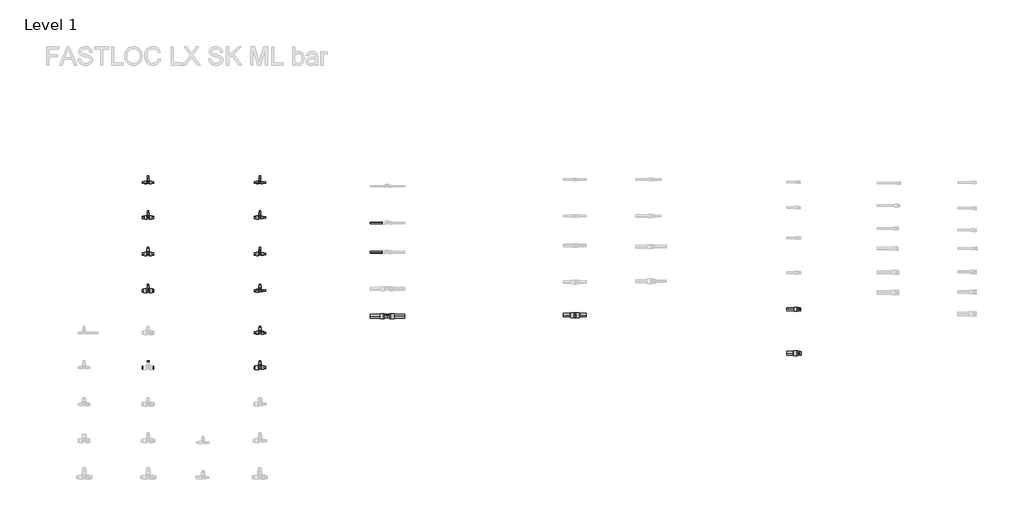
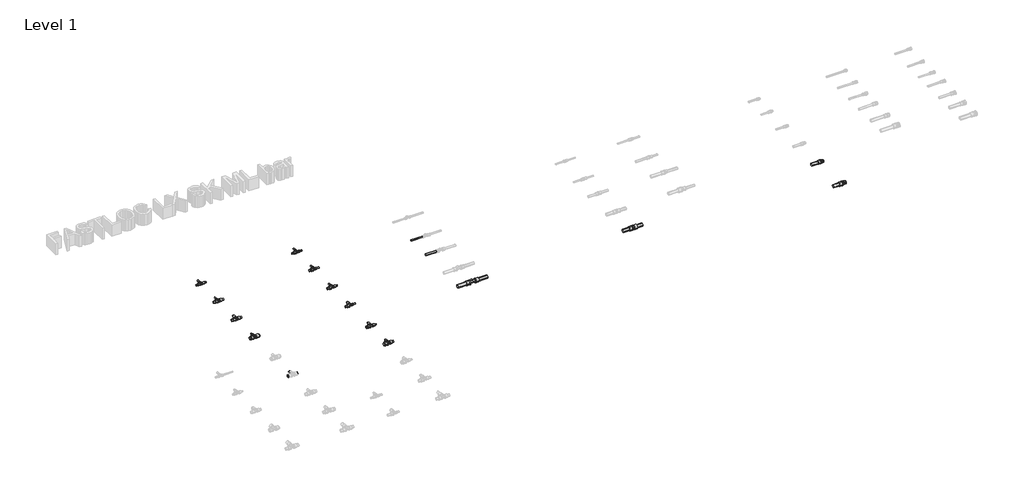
# One storey, part 13 of 78: 41 pipe segments, 14 pipe fittings.
"""IFC4 building model written with IfcOpenShell, lengths in millimetres."""

from ifc_helpers import new_model, si_unit, point, frame, frame_2d, origin, place, context, project, spatial, circle_curve, trimmed, segment, composite_curve, outline, extrude, transform, mapped, element, save
from components import pipe_fitting_5ae7c970, pipe_fitting_e97a97d3, pipe_fitting_d9a56b63, pipe_fitting_a094db19, pipe_fitting_5d5decb5, pipe_fitting_f2600fd0, pipe_fitting_8fb58d5f, pipe_fitting_db17a53a, pipe_fitting_3bea6388, pipe_fitting_e638986c, pipe_fitting_00caae07, pipe_fitting_607ccf76, pipe_fitting_b01d00d0, pipe_fitting_e8fea69e

model = new_model("IFC4")

# Units and contexts
model_context = context("Model", 3, world=origin())
ifc_project = project(units=[si_unit("LENGTHUNIT", "METRE", prefix="MILLI")], contexts=[model_context])

# Site, building, storey
site = spatial("IfcSite", under=ifc_project)
building = spatial("IfcBuilding", under=site)
storey = spatial("IfcBuildingStorey", under=building, Name="Level 1", Elevation=0.0)

# Pipe fittings
placement = place(None, origin())
pipe_fitting_shape = pipe_fitting_5ae7c970(model_context)
element("IfcPipeFitting", 1, ObjectType="FASTLOC_T-piece_LX : FSL T-Piece LX SK", at=placement, inside=storey, context=model_context, shape_type="MappedRepresentation", body=[
    mapped(pipe_fitting_shape, transform((426.7498072, -18740.2405791, 0.0), x_axis=(1.0, 0.0, 0.0), y_axis=(0.0, 1.0, 0.0), z_axis=(0.0, 0.0, 1.0))),
])
pipe_fitting_2_shape = pipe_fitting_e97a97d3(model_context)
element("IfcPipeFitting", 2, ObjectType="FASTLOC_T-piece_LX : FSL T-Piece LX SK", at=placement, inside=storey, context=model_context, shape_type="MappedRepresentation", body=[
    mapped(pipe_fitting_2_shape, transform((426.7498072, -19120.2405791, 0.0), x_axis=(1.0, 0.0, 0.0), y_axis=(0.0, 1.0, 0.0), z_axis=(0.0, 0.0, 1.0))),
])
pipe_fitting_3_shape = pipe_fitting_d9a56b63(model_context)
element("IfcPipeFitting", 3, ObjectType="FASTLOC_T-piece_LX : FSL T-Piece LX SK", at=placement, inside=storey, context=model_context, shape_type="MappedRepresentation", body=[
    mapped(pipe_fitting_3_shape, transform((426.7498072, -19520.2405791, 0.0), x_axis=(1.0, 0.0, 0.0), y_axis=(0.0, 1.0, 0.0), z_axis=(0.0, 0.0, 1.0))),
])
pipe_fitting_4_shape = pipe_fitting_a094db19(model_context)
element("IfcPipeFitting", 4, ObjectType="FASTLOC_T-piece_LX : FSL T-Piece LX SK", at=placement, inside=storey, context=model_context, shape_type="MappedRepresentation", body=[
    mapped(pipe_fitting_4_shape, transform((426.7498072, -19920.2405791, 0.0), x_axis=(1.0, 0.0, 0.0), y_axis=(0.0, 1.0, 0.0), z_axis=(0.0, 0.0, 1.0))),
])
pipe_fitting_5_shape = pipe_fitting_5d5decb5(model_context)
element("IfcPipeFitting", 5, ObjectType="FASTLOC_T-piece_LX : FSL T-Piece LX SK", at=placement, inside=storey, context=model_context, shape_type="MappedRepresentation", body=[
    mapped(pipe_fitting_5_shape, transform((1646.7498072, -20380.2405791, 0.0), x_axis=(1.0, 0.0, 0.0), y_axis=(0.0, 1.0, 0.0), z_axis=(0.0, 0.0, 1.0))),
])
pipe_fitting_6_shape = pipe_fitting_f2600fd0(model_context)
element("IfcPipeFitting", 6, ObjectType="FASTLOC_T-piece_LX : FSL T-Piece LX SK", at=placement, inside=storey, context=model_context, shape_type="MappedRepresentation", body=[
    mapped(pipe_fitting_6_shape, transform((1646.7498072, -20760.2405791, 0.0), x_axis=(1.0, 0.0, 0.0), y_axis=(0.0, 1.0, 0.0), z_axis=(0.0, 0.0, 1.0))),
])
pipe_fitting_7_shape = pipe_fitting_8fb58d5f(model_context)
element("IfcPipeFitting", 7, ObjectType="FASTLOC_T-piece_LX : FSL T-Piece LX SK", at=placement, inside=storey, context=model_context, shape_type="MappedRepresentation", body=[
    mapped(pipe_fitting_7_shape, transform((1646.7498072, -18740.2405791, 0.0), x_axis=(1.0, 0.0, 0.0), y_axis=(0.0, 1.0, 0.0), z_axis=(0.0, 0.0, 1.0))),
])
pipe_fitting_8_shape = pipe_fitting_db17a53a(model_context)
element("IfcPipeFitting", 8, ObjectType="FASTLOC_T-piece_LX : FSL T-Piece LX SK", at=placement, inside=storey, context=model_context, shape_type="MappedRepresentation", body=[
    mapped(pipe_fitting_8_shape, transform((1646.7498072, -19120.2405791, 0.0), x_axis=(1.0, 0.0, 0.0), y_axis=(0.0, 1.0, 0.0), z_axis=(0.0, 0.0, 1.0))),
])
pipe_fitting_9_shape = pipe_fitting_3bea6388(model_context)
element("IfcPipeFitting", 9, ObjectType="FASTLOC_T-piece_LX : FSL T-Piece LX SK", at=placement, inside=storey, context=model_context, shape_type="MappedRepresentation", body=[
    mapped(pipe_fitting_9_shape, transform((1646.7498072, -19520.2405791, 0.0), x_axis=(1.0, 0.0, 0.0), y_axis=(0.0, 1.0, 0.0), z_axis=(0.0, 0.0, 1.0))),
])
pipe_fitting_10_shape = pipe_fitting_e638986c(model_context)
element("IfcPipeFitting", 10, ObjectType="FASTLOC_T-piece_LX : FSL T-Piece LX SK", at=placement, inside=storey, context=model_context, shape_type="MappedRepresentation", body=[
    mapped(pipe_fitting_10_shape, transform((1646.7498072, -19920.2405791, 0.0), x_axis=(1.0, 0.0, 0.0), y_axis=(0.0, 1.0, 0.0), z_axis=(0.0, 0.0, 1.0))),
])
pipe_fitting_11_shape = pipe_fitting_00caae07(model_context)
element("IfcPipeFitting", 11, ObjectType="FASTLOC_T-piece internal thread LX : FSL T thread LX SK", at=placement, inside=storey, context=model_context, shape_type="MappedRepresentation", body=[
    mapped(pipe_fitting_11_shape, transform((3036.609585, -20199.8272875, 0.0), x_axis=(1.0, 0.0, 0.0), y_axis=(0.0, 1.0, 0.0), z_axis=(0.0, 0.0, 1.0))),
])
pipe_fitting_12_shape = pipe_fitting_607ccf76(model_context)
element("IfcPipeFitting", 12, ObjectType="FASTLOC_Coupling equal LX : FSL C LX SK", at=placement, inside=storey, context=model_context, shape_type="MappedRepresentation", body=[
    mapped(pipe_fitting_12_shape, transform((5088.3790161, -20187.4785925, 0.0), x_axis=(1.0, 0.0, 0.0), y_axis=(0.0, 1.0, 0.0), z_axis=(0.0, 0.0, 1.0))),
])
pipe_fitting_13_shape = pipe_fitting_b01d00d0(model_context)
element("IfcPipeFitting", 13, ObjectType="FASTLOC_Adapter_LX, with external thread : FSL A C external SK", at=placement, inside=storey, context=model_context, shape_type="MappedRepresentation", body=[
    mapped(pipe_fitting_13_shape, transform((7526.8953131, -20124.2068389, 0.0), x_axis=(1.0, 0.0, 0.0), y_axis=(0.0, 1.0, 0.0), z_axis=(0.0, 0.0, 1.0))),
])
pipe_fitting_14_shape = pipe_fitting_e8fea69e(model_context)
element("IfcPipeFitting", 14, ObjectType="FASTLOC_Adapter_LX, with external thread : FSL A C external SK", at=placement, inside=storey, context=model_context, shape_type="MappedRepresentation", body=[
    mapped(pipe_fitting_14_shape, transform((7526.8953131, -20604.2068389, 0.0), x_axis=(1.0, 0.0, 0.0), y_axis=(0.0, 1.0, 0.0), z_axis=(0.0, 0.0, 1.0))),
])

# Pipe segments
element("IfcPipeSegment", 15, ObjectType="FASTLOC LX ML SK bar", at=placement, inside=storey, context=model_context, shape_type="SweptSolid", body=[
    extrude(outline(composite_curve([segment(trimmed(circle_curve(frame_2d((-20760.2405791, 0.0)), 16.0), [point((-20776.2405791, 0.0))], [point((-20760.2405791, 16.0))], False, "CARTESIAN"), True, "CONTINUOUS"), segment(trimmed(circle_curve(frame_2d((-20760.2405791, 0.0)), 16.0), [point((-20760.2405791, 16.0))], [point((-20744.2405791, 0.0))], False, "CARTESIAN"), True, "CONTINUOUS"), segment(trimmed(circle_curve(frame_2d((-20760.2405791, 0.0)), 16.0), [point((-20744.2405791, 0.0))], [point((-20760.2405791, -16.0))], False, "CARTESIAN"), True, "CONTINUOUS"), segment(trimmed(circle_curve(frame_2d((-20760.2405791, 0.0)), 16.0), [point((-20760.2405791, -16.0))], [point((-20776.2405791, 0.0))], False, "CARTESIAN"), True, "CONTINUOUS")], self_intersect=False)), frame((448.7498072, 0.0, 0.0), z_axis=(1.0, 0.0, 0.0), x_axis=(0.0, 1.0, 0.0)), (0.0, 0.0, 1.0), 40.0),
])
element("IfcPipeSegment", 16, ObjectType="FASTLOC LX ML SK bar", at=placement, inside=storey, context=model_context, shape_type="SweptSolid", body=[
    extrude(outline(composite_curve([segment(trimmed(circle_curve(frame_2d((-20760.2405791, 0.0)), 16.0), [point((-20744.2405791, 0.0))], [point((-20760.2405791, -16.0))], False, "CARTESIAN"), True, "CONTINUOUS"), segment(trimmed(circle_curve(frame_2d((-20760.2405791, 0.0)), 16.0), [point((-20760.2405791, -16.0))], [point((-20776.2405791, 0.0))], False, "CARTESIAN"), True, "CONTINUOUS"), segment(trimmed(circle_curve(frame_2d((-20760.2405791, 0.0)), 16.0), [point((-20776.2405791, 0.0))], [point((-20760.2405791, 16.0))], False, "CARTESIAN"), True, "CONTINUOUS"), segment(trimmed(circle_curve(frame_2d((-20760.2405791, 0.0)), 16.0), [point((-20760.2405791, 16.0))], [point((-20744.2405791, 0.0))], False, "CARTESIAN"), True, "CONTINUOUS")], self_intersect=False)), frame((364.7498072, 0.0, 0.0), z_axis=(1.0, 0.0, 0.0), x_axis=(0.0, 1.0, 0.0)), (0.0, 0.0, 1.0), 40.0),
])
element("IfcPipeSegment", 17, ObjectType="FASTLOC LX ML SK bar", at=placement, inside=storey, context=model_context, shape_type="SweptSolid", body=[
    extrude(outline(composite_curve([segment(trimmed(circle_curve(frame_2d((0.0, 426.7498072)), 12.5), [point((0.0, 439.2498072))], [point((12.5, 426.7498072))], False, "CARTESIAN"), True, "CONTINUOUS"), segment(trimmed(circle_curve(frame_2d((0.0, 426.7498072)), 12.5), [point((12.5, 426.7498072))], [point((0.0, 414.2498072))], False, "CARTESIAN"), True, "CONTINUOUS"), segment(trimmed(circle_curve(frame_2d((0.0, 426.7498072)), 12.5), [point((0.0, 414.2498072))], [point((-12.5, 426.7498072))], False, "CARTESIAN"), True, "CONTINUOUS"), segment(trimmed(circle_curve(frame_2d((0.0, 426.7498072)), 12.5), [point((-12.5, 426.7498072))], [point((0.0, 439.2498072))], False, "CARTESIAN"), True, "CONTINUOUS")], self_intersect=False)), frame((0.0, -20725.8405791, 0.0), z_axis=(0.0, 1.0, 0.0), x_axis=(0.0, 0.0, 1.0)), (0.0, 0.0, 1.0), 37.9),
])
element("IfcPipeSegment", 18, ObjectType="FASTLOC LX ML SK bar", at=placement, inside=storey, context=model_context, shape_type="SweptSolid", body=[
    extrude(outline(composite_curve([segment(trimmed(circle_curve(frame_2d((-18740.2405791, 0.0)), 8.0), [point((-18748.2405791, 0.0))], [point((-18740.2405791, 8.0))], False, "CARTESIAN"), True, "CONTINUOUS"), segment(trimmed(circle_curve(frame_2d((-18740.2405791, 0.0)), 8.0), [point((-18740.2405791, 8.0))], [point((-18732.2405791, 0.0))], False, "CARTESIAN"), True, "CONTINUOUS"), segment(trimmed(circle_curve(frame_2d((-18740.2405791, 0.0)), 8.0), [point((-18732.2405791, 0.0))], [point((-18740.2405791, -8.0))], False, "CARTESIAN"), True, "CONTINUOUS"), segment(trimmed(circle_curve(frame_2d((-18740.2405791, 0.0)), 8.0), [point((-18740.2405791, -8.0))], [point((-18748.2405791, 0.0))], False, "CARTESIAN"), True, "CONTINUOUS")], self_intersect=False)), frame((442.0498072, 0.0, 0.0), z_axis=(1.0, 0.0, 0.0), x_axis=(0.0, 1.0, 0.0)), (0.0, 0.0, 1.0), 46.7),
])
element("IfcPipeSegment", 19, ObjectType="FASTLOC LX ML SK bar", at=placement, inside=storey, context=model_context, shape_type="SweptSolid", body=[
    extrude(outline(composite_curve([segment(trimmed(circle_curve(frame_2d((-18740.2405791, 0.0)), 8.0), [point((-18732.2405791, 0.0))], [point((-18740.2405791, -8.0))], False, "CARTESIAN"), True, "CONTINUOUS"), segment(trimmed(circle_curve(frame_2d((-18740.2405791, 0.0)), 8.0), [point((-18740.2405791, -8.0))], [point((-18748.2405791, 0.0))], False, "CARTESIAN"), True, "CONTINUOUS"), segment(trimmed(circle_curve(frame_2d((-18740.2405791, 0.0)), 8.0), [point((-18748.2405791, 0.0))], [point((-18740.2405791, 8.0))], False, "CARTESIAN"), True, "CONTINUOUS"), segment(trimmed(circle_curve(frame_2d((-18740.2405791, 0.0)), 8.0), [point((-18740.2405791, 8.0))], [point((-18732.2405791, 0.0))], False, "CARTESIAN"), True, "CONTINUOUS")], self_intersect=False)), frame((364.7498072, 0.0, 0.0), z_axis=(1.0, 0.0, 0.0), x_axis=(0.0, 1.0, 0.0)), (0.0, 0.0, 1.0), 46.7),
])
element("IfcPipeSegment", 20, ObjectType="FASTLOC LX ML SK bar", at=placement, inside=storey, context=model_context, shape_type="SweptSolid", body=[
    extrude(outline(composite_curve([segment(trimmed(circle_curve(frame_2d((0.0, 426.7498072)), 8.0), [point((0.0, 434.7498072))], [point((8.0, 426.7498072))], False, "CARTESIAN"), True, "CONTINUOUS"), segment(trimmed(circle_curve(frame_2d((0.0, 426.7498072)), 8.0), [point((8.0, 426.7498072))], [point((0.0, 418.7498072))], False, "CARTESIAN"), True, "CONTINUOUS"), segment(trimmed(circle_curve(frame_2d((0.0, 426.7498072)), 8.0), [point((0.0, 418.7498072))], [point((-8.0, 426.7498072))], False, "CARTESIAN"), True, "CONTINUOUS"), segment(trimmed(circle_curve(frame_2d((0.0, 426.7498072)), 8.0), [point((-8.0, 426.7498072))], [point((0.0, 434.7498072))], False, "CARTESIAN"), True, "CONTINUOUS")], self_intersect=False)), frame((0.0, -18713.9405791, 0.0), z_axis=(0.0, 1.0, 0.0), x_axis=(0.0, 0.0, 1.0)), (0.0, 0.0, 1.0), 46.0),
])
element("IfcPipeSegment", 21, ObjectType="FASTLOC LX ML SK bar", at=placement, inside=storey, context=model_context, shape_type="SweptSolid", body=[
    extrude(outline(composite_curve([segment(trimmed(circle_curve(frame_2d((-19120.2405791, 0.0)), 12.5), [point((-19132.7405791, 0.0))], [point((-19120.2405791, 12.5))], False, "CARTESIAN"), True, "CONTINUOUS"), segment(trimmed(circle_curve(frame_2d((-19120.2405791, 0.0)), 12.5), [point((-19120.2405791, 12.5))], [point((-19107.7405791, 0.0))], False, "CARTESIAN"), True, "CONTINUOUS"), segment(trimmed(circle_curve(frame_2d((-19120.2405791, 0.0)), 12.5), [point((-19107.7405791, 0.0))], [point((-19120.2405791, -12.5))], False, "CARTESIAN"), True, "CONTINUOUS"), segment(trimmed(circle_curve(frame_2d((-19120.2405791, 0.0)), 12.5), [point((-19120.2405791, -12.5))], [point((-19132.7405791, 0.0))], False, "CARTESIAN"), True, "CONTINUOUS")], self_intersect=False)), frame((442.9498072, 0.0, 0.0), z_axis=(1.0, 0.0, 0.0), x_axis=(0.0, 1.0, 0.0)), (0.0, 0.0, 1.0), 45.8),
])
element("IfcPipeSegment", 22, ObjectType="FASTLOC LX ML SK bar", at=placement, inside=storey, context=model_context, shape_type="SweptSolid", body=[
    extrude(outline(composite_curve([segment(trimmed(circle_curve(frame_2d((-19120.2405791, 0.0)), 12.5), [point((-19107.7405791, 0.0))], [point((-19120.2405791, -12.5))], False, "CARTESIAN"), True, "CONTINUOUS"), segment(trimmed(circle_curve(frame_2d((-19120.2405791, 0.0)), 12.5), [point((-19120.2405791, -12.5))], [point((-19132.7405791, 0.0))], False, "CARTESIAN"), True, "CONTINUOUS"), segment(trimmed(circle_curve(frame_2d((-19120.2405791, 0.0)), 12.5), [point((-19132.7405791, 0.0))], [point((-19120.2405791, 12.5))], False, "CARTESIAN"), True, "CONTINUOUS"), segment(trimmed(circle_curve(frame_2d((-19120.2405791, 0.0)), 12.5), [point((-19120.2405791, 12.5))], [point((-19107.7405791, 0.0))], False, "CARTESIAN"), True, "CONTINUOUS")], self_intersect=False)), frame((364.7498072, 0.0, 0.0), z_axis=(1.0, 0.0, 0.0), x_axis=(0.0, 1.0, 0.0)), (0.0, 0.0, 1.0), 45.8),
])
element("IfcPipeSegment", 23, ObjectType="FASTLOC LX ML SK bar", at=placement, inside=storey, context=model_context, shape_type="SweptSolid", body=[
    extrude(outline(composite_curve([segment(trimmed(circle_curve(frame_2d((0.0, 426.7498072)), 8.0), [point((0.0, 434.7498072))], [point((8.0, 426.7498072))], False, "CARTESIAN"), True, "CONTINUOUS"), segment(trimmed(circle_curve(frame_2d((0.0, 426.7498072)), 8.0), [point((8.0, 426.7498072))], [point((0.0, 418.7498072))], False, "CARTESIAN"), True, "CONTINUOUS"), segment(trimmed(circle_curve(frame_2d((0.0, 426.7498072)), 8.0), [point((0.0, 418.7498072))], [point((-8.0, 426.7498072))], False, "CARTESIAN"), True, "CONTINUOUS"), segment(trimmed(circle_curve(frame_2d((0.0, 426.7498072)), 8.0), [point((-8.0, 426.7498072))], [point((0.0, 434.7498072))], False, "CARTESIAN"), True, "CONTINUOUS")], self_intersect=False)), frame((0.0, -19091.2405791, 0.0), z_axis=(0.0, 1.0, 0.0), x_axis=(0.0, 0.0, 1.0)), (0.0, 0.0, 1.0), 43.3),
])
element("IfcPipeSegment", 24, ObjectType="FASTLOC LX ML SK bar", at=placement, inside=storey, context=model_context, shape_type="SweptSolid", body=[
    extrude(outline(composite_curve([segment(trimmed(circle_curve(frame_2d((-19520.2405791, 0.0)), 12.5), [point((-19532.7405791, 0.0))], [point((-19520.2405791, 12.5))], False, "CARTESIAN"), True, "CONTINUOUS"), segment(trimmed(circle_curve(frame_2d((-19520.2405791, 0.0)), 12.5), [point((-19520.2405791, 12.5))], [point((-19507.7405791, 0.0))], False, "CARTESIAN"), True, "CONTINUOUS"), segment(trimmed(circle_curve(frame_2d((-19520.2405791, 0.0)), 12.5), [point((-19507.7405791, 0.0))], [point((-19520.2405791, -12.5))], False, "CARTESIAN"), True, "CONTINUOUS"), segment(trimmed(circle_curve(frame_2d((-19520.2405791, 0.0)), 12.5), [point((-19520.2405791, -12.5))], [point((-19532.7405791, 0.0))], False, "CARTESIAN"), True, "CONTINUOUS")], self_intersect=False)), frame((444.8498072, 0.0, 0.0), z_axis=(1.0, 0.0, 0.0), x_axis=(0.0, 1.0, 0.0)), (0.0, 0.0, 1.0), 43.9),
])
element("IfcPipeSegment", 25, ObjectType="FASTLOC LX ML SK bar", at=placement, inside=storey, context=model_context, shape_type="SweptSolid", body=[
    extrude(outline(composite_curve([segment(trimmed(circle_curve(frame_2d((-19520.2405791, 0.0)), 12.5), [point((-19507.7405791, 0.0))], [point((-19520.2405791, -12.5))], False, "CARTESIAN"), True, "CONTINUOUS"), segment(trimmed(circle_curve(frame_2d((-19520.2405791, 0.0)), 12.5), [point((-19520.2405791, -12.5))], [point((-19532.7405791, 0.0))], False, "CARTESIAN"), True, "CONTINUOUS"), segment(trimmed(circle_curve(frame_2d((-19520.2405791, 0.0)), 12.5), [point((-19532.7405791, 0.0))], [point((-19520.2405791, 12.5))], False, "CARTESIAN"), True, "CONTINUOUS"), segment(trimmed(circle_curve(frame_2d((-19520.2405791, 0.0)), 12.5), [point((-19520.2405791, 12.5))], [point((-19507.7405791, 0.0))], False, "CARTESIAN"), True, "CONTINUOUS")], self_intersect=False)), frame((364.7498072, 0.0, 0.0), z_axis=(1.0, 0.0, 0.0), x_axis=(0.0, 1.0, 0.0)), (0.0, 0.0, 1.0), 43.9),
])
element("IfcPipeSegment", 26, ObjectType="FASTLOC LX ML SK bar", at=placement, inside=storey, context=model_context, shape_type="SweptSolid", body=[
    extrude(outline(composite_curve([segment(trimmed(circle_curve(frame_2d((0.0, 426.7498072)), 8.0), [point((0.0, 434.7498072))], [point((8.0, 426.7498072))], False, "CARTESIAN"), True, "CONTINUOUS"), segment(trimmed(circle_curve(frame_2d((0.0, 426.7498072)), 8.0), [point((8.0, 426.7498072))], [point((0.0, 418.7498072))], False, "CARTESIAN"), True, "CONTINUOUS"), segment(trimmed(circle_curve(frame_2d((0.0, 426.7498072)), 8.0), [point((0.0, 418.7498072))], [point((-8.0, 426.7498072))], False, "CARTESIAN"), True, "CONTINUOUS"), segment(trimmed(circle_curve(frame_2d((0.0, 426.7498072)), 8.0), [point((-8.0, 426.7498072))], [point((0.0, 434.7498072))], False, "CARTESIAN"), True, "CONTINUOUS")], self_intersect=False)), frame((0.0, -19491.0405791, 0.0), z_axis=(0.0, 1.0, 0.0), x_axis=(0.0, 0.0, 1.0)), (0.0, 0.0, 1.0), 43.1),
])
element("IfcPipeSegment", 27, ObjectType="FASTLOC LX ML SK bar", at=placement, inside=storey, context=model_context, shape_type="SweptSolid", body=[
    extrude(outline(composite_curve([segment(trimmed(circle_curve(frame_2d((-19920.2405791, 0.0)), 16.0), [point((-19936.2405791, 0.0))], [point((-19920.2405791, 16.0))], False, "CARTESIAN"), True, "CONTINUOUS"), segment(trimmed(circle_curve(frame_2d((-19920.2405791, 0.0)), 16.0), [point((-19920.2405791, 16.0))], [point((-19904.2405791, 0.0))], False, "CARTESIAN"), True, "CONTINUOUS"), segment(trimmed(circle_curve(frame_2d((-19920.2405791, 0.0)), 16.0), [point((-19904.2405791, 0.0))], [point((-19920.2405791, -16.0))], False, "CARTESIAN"), True, "CONTINUOUS"), segment(trimmed(circle_curve(frame_2d((-19920.2405791, 0.0)), 16.0), [point((-19920.2405791, -16.0))], [point((-19936.2405791, 0.0))], False, "CARTESIAN"), True, "CONTINUOUS")], self_intersect=False)), frame((445.0498072, 0.0, 0.0), z_axis=(1.0, 0.0, 0.0), x_axis=(0.0, 1.0, 0.0)), (0.0, 0.0, 1.0), 43.7),
])
element("IfcPipeSegment", 28, ObjectType="FASTLOC LX ML SK bar", at=placement, inside=storey, context=model_context, shape_type="SweptSolid", body=[
    extrude(outline(composite_curve([segment(trimmed(circle_curve(frame_2d((-19920.2405791, 0.0)), 16.0), [point((-19904.2405791, 0.0))], [point((-19920.2405791, -16.0))], False, "CARTESIAN"), True, "CONTINUOUS"), segment(trimmed(circle_curve(frame_2d((-19920.2405791, 0.0)), 16.0), [point((-19920.2405791, -16.0))], [point((-19936.2405791, 0.0))], False, "CARTESIAN"), True, "CONTINUOUS"), segment(trimmed(circle_curve(frame_2d((-19920.2405791, 0.0)), 16.0), [point((-19936.2405791, 0.0))], [point((-19920.2405791, 16.0))], False, "CARTESIAN"), True, "CONTINUOUS"), segment(trimmed(circle_curve(frame_2d((-19920.2405791, 0.0)), 16.0), [point((-19920.2405791, 16.0))], [point((-19904.2405791, 0.0))], False, "CARTESIAN"), True, "CONTINUOUS")], self_intersect=False)), frame((364.7498072, 0.0, 0.0), z_axis=(1.0, 0.0, 0.0), x_axis=(0.0, 1.0, 0.0)), (0.0, 0.0, 1.0), 43.7),
])
element("IfcPipeSegment", 29, ObjectType="FASTLOC LX ML SK bar", at=placement, inside=storey, context=model_context, shape_type="SweptSolid", body=[
    extrude(outline(composite_curve([segment(trimmed(circle_curve(frame_2d((0.0, 426.7498072)), 8.0), [point((0.0, 434.7498072))], [point((8.0, 426.7498072))], False, "CARTESIAN"), True, "CONTINUOUS"), segment(trimmed(circle_curve(frame_2d((0.0, 426.7498072)), 8.0), [point((8.0, 426.7498072))], [point((0.0, 418.7498072))], False, "CARTESIAN"), True, "CONTINUOUS"), segment(trimmed(circle_curve(frame_2d((0.0, 426.7498072)), 8.0), [point((0.0, 418.7498072))], [point((-8.0, 426.7498072))], False, "CARTESIAN"), True, "CONTINUOUS"), segment(trimmed(circle_curve(frame_2d((0.0, 426.7498072)), 8.0), [point((-8.0, 426.7498072))], [point((0.0, 434.7498072))], False, "CARTESIAN"), True, "CONTINUOUS")], self_intersect=False)), frame((0.0, -19886.3405791, 0.0), z_axis=(0.0, 1.0, 0.0), x_axis=(0.0, 0.0, 1.0)), (0.0, 0.0, 1.0), 38.4),
])
element("IfcPipeSegment", 30, ObjectType="FASTLOC LX ML SK bar", at=placement, inside=storey, context=model_context, shape_type="SweptSolid", body=[
    extrude(outline(composite_curve([segment(trimmed(circle_curve(frame_2d((-20380.2405791, 0.0)), 8.0), [point((-20388.2405791, 0.0))], [point((-20380.2405791, 8.0))], False, "CARTESIAN"), True, "CONTINUOUS"), segment(trimmed(circle_curve(frame_2d((-20380.2405791, 0.0)), 8.0), [point((-20380.2405791, 8.0))], [point((-20372.2405791, 0.0))], False, "CARTESIAN"), True, "CONTINUOUS"), segment(trimmed(circle_curve(frame_2d((-20380.2405791, 0.0)), 8.0), [point((-20372.2405791, 0.0))], [point((-20380.2405791, -8.0))], False, "CARTESIAN"), True, "CONTINUOUS"), segment(trimmed(circle_curve(frame_2d((-20380.2405791, 0.0)), 8.0), [point((-20380.2405791, -8.0))], [point((-20388.2405791, 0.0))], False, "CARTESIAN"), True, "CONTINUOUS")], self_intersect=False)), frame((1664.1498072, 0.0, 0.0), z_axis=(1.0, 0.0, 0.0), x_axis=(0.0, 1.0, 0.0)), (0.0, 0.0, 1.0), 44.6),
])
element("IfcPipeSegment", 31, ObjectType="FASTLOC LX ML SK bar", at=placement, inside=storey, context=model_context, shape_type="SweptSolid", body=[
    extrude(outline(composite_curve([segment(trimmed(circle_curve(frame_2d((-20380.2405791, 0.0)), 12.5), [point((-20367.7405791, 0.0))], [point((-20380.2405791, -12.5))], False, "CARTESIAN"), True, "CONTINUOUS"), segment(trimmed(circle_curve(frame_2d((-20380.2405791, 0.0)), 12.5), [point((-20380.2405791, -12.5))], [point((-20392.7405791, 0.0))], False, "CARTESIAN"), True, "CONTINUOUS"), segment(trimmed(circle_curve(frame_2d((-20380.2405791, 0.0)), 12.5), [point((-20392.7405791, 0.0))], [point((-20380.2405791, 12.5))], False, "CARTESIAN"), True, "CONTINUOUS"), segment(trimmed(circle_curve(frame_2d((-20380.2405791, 0.0)), 12.5), [point((-20380.2405791, 12.5))], [point((-20367.7405791, 0.0))], False, "CARTESIAN"), True, "CONTINUOUS")], self_intersect=False)), frame((1584.7498072, 0.0, 0.0), z_axis=(1.0, 0.0, 0.0), x_axis=(0.0, 1.0, 0.0)), (0.0, 0.0, 1.0), 43.7),
])
element("IfcPipeSegment", 32, ObjectType="FASTLOC LX ML SK bar", at=placement, inside=storey, context=model_context, shape_type="SweptSolid", body=[
    extrude(outline(composite_curve([segment(trimmed(circle_curve(frame_2d((0.0, 1646.7498072)), 8.0), [point((0.0, 1654.7498072))], [point((8.0, 1646.7498072))], False, "CARTESIAN"), True, "CONTINUOUS"), segment(trimmed(circle_curve(frame_2d((0.0, 1646.7498072)), 8.0), [point((8.0, 1646.7498072))], [point((0.0, 1638.7498072))], False, "CARTESIAN"), True, "CONTINUOUS"), segment(trimmed(circle_curve(frame_2d((0.0, 1646.7498072)), 8.0), [point((0.0, 1638.7498072))], [point((-8.0, 1646.7498072))], False, "CARTESIAN"), True, "CONTINUOUS"), segment(trimmed(circle_curve(frame_2d((0.0, 1646.7498072)), 8.0), [point((-8.0, 1646.7498072))], [point((0.0, 1654.7498072))], False, "CARTESIAN"), True, "CONTINUOUS")], self_intersect=False)), frame((0.0, -20351.0405791, 0.0), z_axis=(0.0, 1.0, 0.0), x_axis=(0.0, 0.0, 1.0)), (0.0, 0.0, 1.0), 43.1),
])
element("IfcPipeSegment", 33, ObjectType="FASTLOC LX ML SK bar", at=placement, inside=storey, context=model_context, shape_type="SweptSolid", body=[
    extrude(outline(composite_curve([segment(trimmed(circle_curve(frame_2d((-20760.2405791, 0.0)), 12.5), [point((-20772.7405791, 0.0))], [point((-20760.2405791, 12.5))], False, "CARTESIAN"), True, "CONTINUOUS"), segment(trimmed(circle_curve(frame_2d((-20760.2405791, 0.0)), 12.5), [point((-20760.2405791, 12.5))], [point((-20747.7405791, 0.0))], False, "CARTESIAN"), True, "CONTINUOUS"), segment(trimmed(circle_curve(frame_2d((-20760.2405791, 0.0)), 12.5), [point((-20747.7405791, 0.0))], [point((-20760.2405791, -12.5))], False, "CARTESIAN"), True, "CONTINUOUS"), segment(trimmed(circle_curve(frame_2d((-20760.2405791, 0.0)), 12.5), [point((-20760.2405791, -12.5))], [point((-20772.7405791, 0.0))], False, "CARTESIAN"), True, "CONTINUOUS")], self_intersect=False)), frame((1665.0498072, 0.0, 0.0), z_axis=(1.0, 0.0, 0.0), x_axis=(0.0, 1.0, 0.0)), (0.0, 0.0, 1.0), 43.7),
])
element("IfcPipeSegment", 34, ObjectType="FASTLOC LX ML SK bar", at=placement, inside=storey, context=model_context, shape_type="SweptSolid", body=[
    extrude(outline(composite_curve([segment(trimmed(circle_curve(frame_2d((-20760.2405791, 0.0)), 16.0), [point((-20744.2405791, 0.0))], [point((-20760.2405791, -16.0))], False, "CARTESIAN"), True, "CONTINUOUS"), segment(trimmed(circle_curve(frame_2d((-20760.2405791, 0.0)), 16.0), [point((-20760.2405791, -16.0))], [point((-20776.2405791, 0.0))], False, "CARTESIAN"), True, "CONTINUOUS"), segment(trimmed(circle_curve(frame_2d((-20760.2405791, 0.0)), 16.0), [point((-20776.2405791, 0.0))], [point((-20760.2405791, 16.0))], False, "CARTESIAN"), True, "CONTINUOUS"), segment(trimmed(circle_curve(frame_2d((-20760.2405791, 0.0)), 16.0), [point((-20760.2405791, 16.0))], [point((-20744.2405791, 0.0))], False, "CARTESIAN"), True, "CONTINUOUS")], self_intersect=False)), frame((1584.7498072, 0.0, 0.0), z_axis=(1.0, 0.0, 0.0), x_axis=(0.0, 1.0, 0.0)), (0.0, 0.0, 1.0), 41.7),
])
element("IfcPipeSegment", 35, ObjectType="FASTLOC LX ML SK bar", at=placement, inside=storey, context=model_context, shape_type="SweptSolid", body=[
    extrude(outline(composite_curve([segment(trimmed(circle_curve(frame_2d((0.0, 1646.7498072)), 8.0), [point((0.0, 1654.7498072))], [point((8.0, 1646.7498072))], False, "CARTESIAN"), True, "CONTINUOUS"), segment(trimmed(circle_curve(frame_2d((0.0, 1646.7498072)), 8.0), [point((8.0, 1646.7498072))], [point((0.0, 1638.7498072))], False, "CARTESIAN"), True, "CONTINUOUS"), segment(trimmed(circle_curve(frame_2d((0.0, 1646.7498072)), 8.0), [point((0.0, 1638.7498072))], [point((-8.0, 1646.7498072))], False, "CARTESIAN"), True, "CONTINUOUS"), segment(trimmed(circle_curve(frame_2d((0.0, 1646.7498072)), 8.0), [point((-8.0, 1646.7498072))], [point((0.0, 1654.7498072))], False, "CARTESIAN"), True, "CONTINUOUS")], self_intersect=False)), frame((0.0, -20726.2405791, 0.0), z_axis=(0.0, 1.0, 0.0), x_axis=(0.0, 0.0, 1.0)), (0.0, 0.0, 1.0), 38.3),
])
element("IfcPipeSegment", 36, ObjectType="FASTLOC LX ML SK bar", at=placement, inside=storey, context=model_context, shape_type="SweptSolid", body=[
    extrude(outline(composite_curve([segment(trimmed(circle_curve(frame_2d((-18740.2405791, 0.0)), 8.0), [point((-18748.2405791, 0.0))], [point((-18740.2405791, 8.0))], False, "CARTESIAN"), True, "CONTINUOUS"), segment(trimmed(circle_curve(frame_2d((-18740.2405791, 0.0)), 8.0), [point((-18740.2405791, 8.0))], [point((-18732.2405791, 0.0))], False, "CARTESIAN"), True, "CONTINUOUS"), segment(trimmed(circle_curve(frame_2d((-18740.2405791, 0.0)), 8.0), [point((-18732.2405791, 0.0))], [point((-18740.2405791, -8.0))], False, "CARTESIAN"), True, "CONTINUOUS"), segment(trimmed(circle_curve(frame_2d((-18740.2405791, 0.0)), 8.0), [point((-18740.2405791, -8.0))], [point((-18748.2405791, 0.0))], False, "CARTESIAN"), True, "CONTINUOUS")], self_intersect=False)), frame((1661.8498072, 0.0, 0.0), z_axis=(1.0, 0.0, 0.0), x_axis=(0.0, 1.0, 0.0)), (0.0, 0.0, 1.0), 46.9),
])
element("IfcPipeSegment", 37, ObjectType="FASTLOC LX ML SK bar", at=placement, inside=storey, context=model_context, shape_type="SweptSolid", body=[
    extrude(outline(composite_curve([segment(trimmed(circle_curve(frame_2d((-18740.2405791, 0.0)), 8.0), [point((-18732.2405791, 0.0))], [point((-18740.2405791, -8.0))], False, "CARTESIAN"), True, "CONTINUOUS"), segment(trimmed(circle_curve(frame_2d((-18740.2405791, 0.0)), 8.0), [point((-18740.2405791, -8.0))], [point((-18748.2405791, 0.0))], False, "CARTESIAN"), True, "CONTINUOUS"), segment(trimmed(circle_curve(frame_2d((-18740.2405791, 0.0)), 8.0), [point((-18748.2405791, 0.0))], [point((-18740.2405791, 8.0))], False, "CARTESIAN"), True, "CONTINUOUS"), segment(trimmed(circle_curve(frame_2d((-18740.2405791, 0.0)), 8.0), [point((-18740.2405791, 8.0))], [point((-18732.2405791, 0.0))], False, "CARTESIAN"), True, "CONTINUOUS")], self_intersect=False)), frame((1584.7498072, 0.0, 0.0), z_axis=(1.0, 0.0, 0.0), x_axis=(0.0, 1.0, 0.0)), (0.0, 0.0, 1.0), 46.5),
])
element("IfcPipeSegment", 38, ObjectType="FASTLOC LX ML SK bar", at=placement, inside=storey, context=model_context, shape_type="SweptSolid", body=[
    extrude(outline(composite_curve([segment(trimmed(circle_curve(frame_2d((0.0, 1646.7498072)), 8.0), [point((0.0, 1654.7498072))], [point((8.0, 1646.7498072))], False, "CARTESIAN"), True, "CONTINUOUS"), segment(trimmed(circle_curve(frame_2d((0.0, 1646.7498072)), 8.0), [point((8.0, 1646.7498072))], [point((0.0, 1638.7498072))], False, "CARTESIAN"), True, "CONTINUOUS"), segment(trimmed(circle_curve(frame_2d((0.0, 1646.7498072)), 8.0), [point((0.0, 1638.7498072))], [point((-8.0, 1646.7498072))], False, "CARTESIAN"), True, "CONTINUOUS"), segment(trimmed(circle_curve(frame_2d((0.0, 1646.7498072)), 8.0), [point((-8.0, 1646.7498072))], [point((0.0, 1654.7498072))], False, "CARTESIAN"), True, "CONTINUOUS")], self_intersect=False)), frame((0.0, -18713.8405791, 0.0), z_axis=(0.0, 1.0, 0.0), x_axis=(0.0, 0.0, 1.0)), (0.0, 0.0, 1.0), 45.9),
])
element("IfcPipeSegment", 39, ObjectType="FASTLOC LX ML SK bar", at=placement, inside=storey, context=model_context, shape_type="SweptSolid", body=[
    extrude(outline(composite_curve([segment(trimmed(circle_curve(frame_2d((-19120.2405791, 0.0)), 8.0), [point((-19128.2405791, 0.0))], [point((-19120.2405791, 8.0))], False, "CARTESIAN"), True, "CONTINUOUS"), segment(trimmed(circle_curve(frame_2d((-19120.2405791, 0.0)), 8.0), [point((-19120.2405791, 8.0))], [point((-19112.2405791, 0.0))], False, "CARTESIAN"), True, "CONTINUOUS"), segment(trimmed(circle_curve(frame_2d((-19120.2405791, 0.0)), 8.0), [point((-19112.2405791, 0.0))], [point((-19120.2405791, -8.0))], False, "CARTESIAN"), True, "CONTINUOUS"), segment(trimmed(circle_curve(frame_2d((-19120.2405791, 0.0)), 8.0), [point((-19120.2405791, -8.0))], [point((-19128.2405791, 0.0))], False, "CARTESIAN"), True, "CONTINUOUS")], self_intersect=False)), frame((1661.8498072, 0.0, 0.0), z_axis=(1.0, 0.0, 0.0), x_axis=(0.0, 1.0, 0.0)), (0.0, 0.0, 1.0), 46.9),
])
element("IfcPipeSegment", 40, ObjectType="FASTLOC LX ML SK bar", at=placement, inside=storey, context=model_context, shape_type="SweptSolid", body=[
    extrude(outline(composite_curve([segment(trimmed(circle_curve(frame_2d((-19120.2405791, 0.0)), 12.5), [point((-19107.7405791, 0.0))], [point((-19120.2405791, -12.5))], False, "CARTESIAN"), True, "CONTINUOUS"), segment(trimmed(circle_curve(frame_2d((-19120.2405791, 0.0)), 12.5), [point((-19120.2405791, -12.5))], [point((-19132.7405791, 0.0))], False, "CARTESIAN"), True, "CONTINUOUS"), segment(trimmed(circle_curve(frame_2d((-19120.2405791, 0.0)), 12.5), [point((-19132.7405791, 0.0))], [point((-19120.2405791, 12.5))], False, "CARTESIAN"), True, "CONTINUOUS"), segment(trimmed(circle_curve(frame_2d((-19120.2405791, 0.0)), 12.5), [point((-19120.2405791, 12.5))], [point((-19107.7405791, 0.0))], False, "CARTESIAN"), True, "CONTINUOUS")], self_intersect=False)), frame((1584.7498072, 0.0, 0.0), z_axis=(1.0, 0.0, 0.0), x_axis=(0.0, 1.0, 0.0)), (0.0, 0.0, 1.0), 45.6),
])
element("IfcPipeSegment", 41, ObjectType="FASTLOC LX ML SK bar", at=placement, inside=storey, context=model_context, shape_type="SweptSolid", body=[
    extrude(outline(composite_curve([segment(trimmed(circle_curve(frame_2d((0.0, 1646.7498072)), 8.0), [point((0.0, 1654.7498072))], [point((8.0, 1646.7498072))], False, "CARTESIAN"), True, "CONTINUOUS"), segment(trimmed(circle_curve(frame_2d((0.0, 1646.7498072)), 8.0), [point((8.0, 1646.7498072))], [point((0.0, 1638.7498072))], False, "CARTESIAN"), True, "CONTINUOUS"), segment(trimmed(circle_curve(frame_2d((0.0, 1646.7498072)), 8.0), [point((0.0, 1638.7498072))], [point((-8.0, 1646.7498072))], False, "CARTESIAN"), True, "CONTINUOUS"), segment(trimmed(circle_curve(frame_2d((0.0, 1646.7498072)), 8.0), [point((-8.0, 1646.7498072))], [point((0.0, 1654.7498072))], False, "CARTESIAN"), True, "CONTINUOUS")], self_intersect=False)), frame((0.0, -19091.1405791, 0.0), z_axis=(0.0, 1.0, 0.0), x_axis=(0.0, 0.0, 1.0)), (0.0, 0.0, 1.0), 43.2),
])
element("IfcPipeSegment", 42, ObjectType="FASTLOC LX ML SK bar", at=placement, inside=storey, context=model_context, shape_type="SweptSolid", body=[
    extrude(outline(composite_curve([segment(trimmed(circle_curve(frame_2d((-19520.2405791, 0.0)), 8.0), [point((-19528.2405791, 0.0))], [point((-19520.2405791, 8.0))], False, "CARTESIAN"), True, "CONTINUOUS"), segment(trimmed(circle_curve(frame_2d((-19520.2405791, 0.0)), 8.0), [point((-19520.2405791, 8.0))], [point((-19512.2405791, 0.0))], False, "CARTESIAN"), True, "CONTINUOUS"), segment(trimmed(circle_curve(frame_2d((-19520.2405791, 0.0)), 8.0), [point((-19512.2405791, 0.0))], [point((-19520.2405791, -8.0))], False, "CARTESIAN"), True, "CONTINUOUS"), segment(trimmed(circle_curve(frame_2d((-19520.2405791, 0.0)), 8.0), [point((-19520.2405791, -8.0))], [point((-19528.2405791, 0.0))], False, "CARTESIAN"), True, "CONTINUOUS")], self_intersect=False)), frame((1662.2498072, 0.0, 0.0), z_axis=(1.0, 0.0, 0.0), x_axis=(0.0, 1.0, 0.0)), (0.0, 0.0, 1.0), 46.5),
])
element("IfcPipeSegment", 43, ObjectType="FASTLOC LX ML SK bar", at=placement, inside=storey, context=model_context, shape_type="SweptSolid", body=[
    extrude(outline(composite_curve([segment(trimmed(circle_curve(frame_2d((-19520.2405791, 0.0)), 12.5), [point((-19507.7405791, 0.0))], [point((-19520.2405791, -12.5))], False, "CARTESIAN"), True, "CONTINUOUS"), segment(trimmed(circle_curve(frame_2d((-19520.2405791, 0.0)), 12.5), [point((-19520.2405791, -12.5))], [point((-19532.7405791, 0.0))], False, "CARTESIAN"), True, "CONTINUOUS"), segment(trimmed(circle_curve(frame_2d((-19520.2405791, 0.0)), 12.5), [point((-19532.7405791, 0.0))], [point((-19520.2405791, 12.5))], False, "CARTESIAN"), True, "CONTINUOUS"), segment(trimmed(circle_curve(frame_2d((-19520.2405791, 0.0)), 12.5), [point((-19520.2405791, 12.5))], [point((-19507.7405791, 0.0))], False, "CARTESIAN"), True, "CONTINUOUS")], self_intersect=False)), frame((1584.7498072, 0.0, 0.0), z_axis=(1.0, 0.0, 0.0), x_axis=(0.0, 1.0, 0.0)), (0.0, 0.0, 1.0), 45.6),
])
element("IfcPipeSegment", 44, ObjectType="FASTLOC LX ML SK bar", at=placement, inside=storey, context=model_context, shape_type="SweptSolid", body=[
    extrude(outline(composite_curve([segment(trimmed(circle_curve(frame_2d((0.0, 1646.7498072)), 8.0), [point((0.0, 1654.7498072))], [point((8.0, 1646.7498072))], False, "CARTESIAN"), True, "CONTINUOUS"), segment(trimmed(circle_curve(frame_2d((0.0, 1646.7498072)), 8.0), [point((8.0, 1646.7498072))], [point((0.0, 1638.7498072))], False, "CARTESIAN"), True, "CONTINUOUS"), segment(trimmed(circle_curve(frame_2d((0.0, 1646.7498072)), 8.0), [point((0.0, 1638.7498072))], [point((-8.0, 1646.7498072))], False, "CARTESIAN"), True, "CONTINUOUS"), segment(trimmed(circle_curve(frame_2d((0.0, 1646.7498072)), 8.0), [point((-8.0, 1646.7498072))], [point((0.0, 1654.7498072))], False, "CARTESIAN"), True, "CONTINUOUS")], self_intersect=False)), frame((0.0, -19491.1405791, 0.0), z_axis=(0.0, 1.0, 0.0), x_axis=(0.0, 0.0, 1.0)), (0.0, 0.0, 1.0), 43.2),
])
element("IfcPipeSegment", 45, ObjectType="FASTLOC LX ML SK bar", at=placement, inside=storey, context=model_context, shape_type="SweptSolid", body=[
    extrude(outline(composite_curve([segment(trimmed(circle_curve(frame_2d((-19920.2405791, 0.0)), 8.0), [point((-19928.2405791, 0.0))], [point((-19920.2405791, 8.0))], False, "CARTESIAN"), True, "CONTINUOUS"), segment(trimmed(circle_curve(frame_2d((-19920.2405791, 0.0)), 8.0), [point((-19920.2405791, 8.0))], [point((-19912.2405791, 0.0))], False, "CARTESIAN"), True, "CONTINUOUS"), segment(trimmed(circle_curve(frame_2d((-19920.2405791, 0.0)), 8.0), [point((-19912.2405791, 0.0))], [point((-19920.2405791, -8.0))], False, "CARTESIAN"), True, "CONTINUOUS"), segment(trimmed(circle_curve(frame_2d((-19920.2405791, 0.0)), 8.0), [point((-19920.2405791, -8.0))], [point((-19928.2405791, 0.0))], False, "CARTESIAN"), True, "CONTINUOUS")], self_intersect=False)), frame((1663.7498072, 0.0, 0.0), z_axis=(1.0, 0.0, 0.0), x_axis=(0.0, 1.0, 0.0)), (0.0, 0.0, 1.0), 45.0),
])
element("IfcPipeSegment", 46, ObjectType="FASTLOC LX ML SK bar", at=placement, inside=storey, context=model_context, shape_type="SweptSolid", body=[
    extrude(outline(composite_curve([segment(trimmed(circle_curve(frame_2d((-19920.2405791, 0.0)), 12.5), [point((-19907.7405791, 0.0))], [point((-19920.2405791, -12.5))], False, "CARTESIAN"), True, "CONTINUOUS"), segment(trimmed(circle_curve(frame_2d((-19920.2405791, 0.0)), 12.5), [point((-19920.2405791, -12.5))], [point((-19932.7405791, 0.0))], False, "CARTESIAN"), True, "CONTINUOUS"), segment(trimmed(circle_curve(frame_2d((-19920.2405791, 0.0)), 12.5), [point((-19932.7405791, 0.0))], [point((-19920.2405791, 12.5))], False, "CARTESIAN"), True, "CONTINUOUS"), segment(trimmed(circle_curve(frame_2d((-19920.2405791, 0.0)), 12.5), [point((-19920.2405791, 12.5))], [point((-19907.7405791, 0.0))], False, "CARTESIAN"), True, "CONTINUOUS")], self_intersect=False)), frame((1584.7498072, 0.0, 0.0), z_axis=(1.0, 0.0, 0.0), x_axis=(0.0, 1.0, 0.0)), (0.0, 0.0, 1.0), 43.7),
])
element("IfcPipeSegment", 47, ObjectType="FASTLOC LX ML SK bar", at=placement, inside=storey, context=model_context, shape_type="SweptSolid", body=[
    extrude(outline(composite_curve([segment(trimmed(circle_curve(frame_2d((0.0, 1646.7498072)), 8.0), [point((0.0, 1654.7498072))], [point((8.0, 1646.7498072))], False, "CARTESIAN"), True, "CONTINUOUS"), segment(trimmed(circle_curve(frame_2d((0.0, 1646.7498072)), 8.0), [point((8.0, 1646.7498072))], [point((0.0, 1638.7498072))], False, "CARTESIAN"), True, "CONTINUOUS"), segment(trimmed(circle_curve(frame_2d((0.0, 1646.7498072)), 8.0), [point((0.0, 1638.7498072))], [point((-8.0, 1646.7498072))], False, "CARTESIAN"), True, "CONTINUOUS"), segment(trimmed(circle_curve(frame_2d((0.0, 1646.7498072)), 8.0), [point((-8.0, 1646.7498072))], [point((0.0, 1654.7498072))], False, "CARTESIAN"), True, "CONTINUOUS")], self_intersect=False)), frame((0.0, -19891.0405791, 0.0), z_axis=(0.0, 1.0, 0.0), x_axis=(0.0, 0.0, 1.0)), (0.0, 0.0, 1.0), 43.1),
])
element("IfcPipeSegment", 48, ObjectType="FASTLOC LX ML SK bar", at=placement, inside=storey, context=model_context, shape_type="SweptSolid", body=[
    extrude(outline(composite_curve([segment(trimmed(circle_curve(frame_2d((-19179.8272875, 0.0)), 8.0), [point((-19171.8272875, 0.0))], [point((-19179.8272875, -8.0))], False, "CARTESIAN"), True, "CONTINUOUS"), segment(trimmed(circle_curve(frame_2d((-19179.8272875, 0.0)), 8.0), [point((-19179.8272875, -8.0))], [point((-19187.8272875, 0.0))], False, "CARTESIAN"), True, "CONTINUOUS"), segment(trimmed(circle_curve(frame_2d((-19179.8272875, 0.0)), 8.0), [point((-19187.8272875, 0.0))], [point((-19179.8272875, 8.0))], False, "CARTESIAN"), True, "CONTINUOUS"), segment(trimmed(circle_curve(frame_2d((-19179.8272875, 0.0)), 8.0), [point((-19179.8272875, 8.0))], [point((-19171.8272875, 0.0))], False, "CARTESIAN"), True, "CONTINUOUS")], self_intersect=False)), frame((2849.609585, 0.0, 0.0), z_axis=(1.0, 0.0, 0.0), x_axis=(0.0, 1.0, 0.0)), (0.0, 0.0, 1.0), 164.5),
])
element("IfcPipeSegment", 49, ObjectType="FASTLOC LX ML SK bar", at=placement, inside=storey, context=model_context, shape_type="SweptSolid", body=[
    extrude(outline(composite_curve([segment(trimmed(circle_curve(frame_2d((-19499.8272875, 0.0)), 12.5), [point((-19487.3272875, 0.0))], [point((-19499.8272875, -12.5))], False, "CARTESIAN"), True, "CONTINUOUS"), segment(trimmed(circle_curve(frame_2d((-19499.8272875, 0.0)), 12.5), [point((-19499.8272875, -12.5))], [point((-19512.3272875, 0.0))], False, "CARTESIAN"), True, "CONTINUOUS"), segment(trimmed(circle_curve(frame_2d((-19499.8272875, 0.0)), 12.5), [point((-19512.3272875, 0.0))], [point((-19499.8272875, 12.5))], False, "CARTESIAN"), True, "CONTINUOUS"), segment(trimmed(circle_curve(frame_2d((-19499.8272875, 0.0)), 12.5), [point((-19499.8272875, 12.5))], [point((-19487.3272875, 0.0))], False, "CARTESIAN"), True, "CONTINUOUS")], self_intersect=False)), frame((2849.609585, 0.0, 0.0), z_axis=(1.0, 0.0, 0.0), x_axis=(0.0, 1.0, 0.0)), (0.0, 0.0, 1.0), 160.3),
])
element("IfcPipeSegment", 50, ObjectType="FASTLOC LX ML SK bar", at=placement, inside=storey, context=model_context, shape_type="SweptSolid", body=[
    extrude(outline(composite_curve([segment(trimmed(circle_curve(frame_2d((-20199.8272875, 0.0)), 20.0), [point((-20219.8272875, 0.0))], [point((-20199.8272875, 20.0))], False, "CARTESIAN"), True, "CONTINUOUS"), segment(trimmed(circle_curve(frame_2d((-20199.8272875, 0.0)), 20.0), [point((-20199.8272875, 20.0))], [point((-20179.8272875, 0.0))], False, "CARTESIAN"), True, "CONTINUOUS"), segment(trimmed(circle_curve(frame_2d((-20199.8272875, 0.0)), 20.0), [point((-20179.8272875, 0.0))], [point((-20199.8272875, -20.0))], False, "CARTESIAN"), True, "CONTINUOUS"), segment(trimmed(circle_curve(frame_2d((-20199.8272875, 0.0)), 20.0), [point((-20199.8272875, -20.0))], [point((-20219.8272875, 0.0))], False, "CARTESIAN"), True, "CONTINUOUS")], self_intersect=False)), frame((3077.909585, 0.0, 0.0), z_axis=(1.0, 0.0, 0.0), x_axis=(0.0, 1.0, 0.0)), (0.0, 0.0, 1.0), 150.7),
])
element("IfcPipeSegment", 51, ObjectType="FASTLOC LX ML SK bar", at=placement, inside=storey, context=model_context, shape_type="SweptSolid", body=[
    extrude(outline(composite_curve([segment(trimmed(circle_curve(frame_2d((-20199.8272875, 0.0)), 20.0), [point((-20179.8272875, 0.0))], [point((-20199.8272875, -20.0))], False, "CARTESIAN"), True, "CONTINUOUS"), segment(trimmed(circle_curve(frame_2d((-20199.8272875, 0.0)), 20.0), [point((-20199.8272875, -20.0))], [point((-20219.8272875, 0.0))], False, "CARTESIAN"), True, "CONTINUOUS"), segment(trimmed(circle_curve(frame_2d((-20199.8272875, 0.0)), 20.0), [point((-20219.8272875, 0.0))], [point((-20199.8272875, 20.0))], False, "CARTESIAN"), True, "CONTINUOUS"), segment(trimmed(circle_curve(frame_2d((-20199.8272875, 0.0)), 20.0), [point((-20199.8272875, 20.0))], [point((-20179.8272875, 0.0))], False, "CARTESIAN"), True, "CONTINUOUS")], self_intersect=False)), frame((2849.609585, 0.0, 0.0), z_axis=(1.0, 0.0, 0.0), x_axis=(0.0, 1.0, 0.0)), (0.0, 0.0, 1.0), 145.7),
])
element("IfcPipeSegment", 52, ObjectType="FASTLOC LX ML SK bar", at=placement, inside=storey, context=model_context, shape_type="SweptSolid", body=[
    extrude(outline(composite_curve([segment(trimmed(circle_curve(frame_2d((-20124.2068389, 0.0)), 16.0), [point((-20108.2068389, 0.0))], [point((-20124.2068389, -16.0))], False, "CARTESIAN"), True, "CONTINUOUS"), segment(trimmed(circle_curve(frame_2d((-20124.2068389, 0.0)), 16.0), [point((-20124.2068389, -16.0))], [point((-20140.2068389, 0.0))], False, "CARTESIAN"), True, "CONTINUOUS"), segment(trimmed(circle_curve(frame_2d((-20124.2068389, 0.0)), 16.0), [point((-20140.2068389, 0.0))], [point((-20124.2068389, 16.0))], False, "CARTESIAN"), True, "CONTINUOUS"), segment(trimmed(circle_curve(frame_2d((-20124.2068389, 0.0)), 16.0), [point((-20124.2068389, 16.0))], [point((-20108.2068389, 0.0))], False, "CARTESIAN"), True, "CONTINUOUS")], self_intersect=False)), frame((7402.0785179, 0.0, 0.0), z_axis=(1.0, 0.0, 0.0), x_axis=(0.0, 1.0, 0.0)), (0.0, 0.0, 1.0), 110.2167951),
])
element("IfcPipeSegment", 53, ObjectType="FASTLOC LX ML SK bar", at=placement, inside=storey, context=model_context, shape_type="SweptSolid", body=[
    extrude(outline(composite_curve([segment(trimmed(circle_curve(frame_2d((-20604.2068389, 0.0)), 20.0), [point((-20584.2068389, 0.0))], [point((-20604.2068389, -20.0))], False, "CARTESIAN"), True, "CONTINUOUS"), segment(trimmed(circle_curve(frame_2d((-20604.2068389, 0.0)), 20.0), [point((-20604.2068389, -20.0))], [point((-20624.2068389, 0.0))], False, "CARTESIAN"), True, "CONTINUOUS"), segment(trimmed(circle_curve(frame_2d((-20604.2068389, 0.0)), 20.0), [point((-20624.2068389, 0.0))], [point((-20604.2068389, 20.0))], False, "CARTESIAN"), True, "CONTINUOUS"), segment(trimmed(circle_curve(frame_2d((-20604.2068389, 0.0)), 20.0), [point((-20604.2068389, 20.0))], [point((-20584.2068389, 0.0))], False, "CARTESIAN"), True, "CONTINUOUS")], self_intersect=False)), frame((7402.0785179, 0.0, 0.0), z_axis=(1.0, 0.0, 0.0), x_axis=(0.0, 1.0, 0.0)), (0.0, 0.0, 1.0), 106.3167951),
])
element("IfcPipeSegment", 54, ObjectType="FASTLOC LX ML SK bar", at=placement, inside=storey, context=model_context, shape_type="SweptSolid", body=[
    extrude(outline(composite_curve([segment(trimmed(circle_curve(frame_2d((-20187.4785925, 0.0)), 20.0), [point((-20207.4785925, 0.0))], [point((-20187.4785925, 20.0))], False, "CARTESIAN"), True, "CONTINUOUS"), segment(trimmed(circle_curve(frame_2d((-20187.4785925, 0.0)), 20.0), [point((-20187.4785925, 20.0))], [point((-20167.4785925, 0.0))], False, "CARTESIAN"), True, "CONTINUOUS"), segment(trimmed(circle_curve(frame_2d((-20187.4785925, 0.0)), 20.0), [point((-20167.4785925, 0.0))], [point((-20187.4785925, -20.0))], False, "CARTESIAN"), True, "CONTINUOUS"), segment(trimmed(circle_curve(frame_2d((-20187.4785925, 0.0)), 20.0), [point((-20187.4785925, -20.0))], [point((-20207.4785925, 0.0))], False, "CARTESIAN"), True, "CONTINUOUS")], self_intersect=False)), frame((5101.0790161, 0.0, 0.0), z_axis=(1.0, 0.0, 0.0), x_axis=(0.0, 1.0, 0.0)), (0.0, 0.0, 1.0), 109.5),
])
element("IfcPipeSegment", 55, ObjectType="FASTLOC LX ML SK bar", at=placement, inside=storey, context=model_context, shape_type="SweptSolid", body=[
    extrude(outline(composite_curve([segment(trimmed(circle_curve(frame_2d((-20187.4785925, 0.0)), 20.0), [point((-20167.4785925, 0.0))], [point((-20187.4785925, -20.0))], False, "CARTESIAN"), True, "CONTINUOUS"), segment(trimmed(circle_curve(frame_2d((-20187.4785925, 0.0)), 20.0), [point((-20187.4785925, -20.0))], [point((-20207.4785925, 0.0))], False, "CARTESIAN"), True, "CONTINUOUS"), segment(trimmed(circle_curve(frame_2d((-20187.4785925, 0.0)), 20.0), [point((-20207.4785925, 0.0))], [point((-20187.4785925, 20.0))], False, "CARTESIAN"), True, "CONTINUOUS"), segment(trimmed(circle_curve(frame_2d((-20187.4785925, 0.0)), 20.0), [point((-20187.4785925, 20.0))], [point((-20167.4785925, 0.0))], False, "CARTESIAN"), True, "CONTINUOUS")], self_intersect=False)), frame((4961.1790161, 0.0, 0.0), z_axis=(1.0, 0.0, 0.0), x_axis=(0.0, 1.0, 0.0)), (0.0, 0.0, 1.0), 114.5),
])

save(model, "model.ifc")
